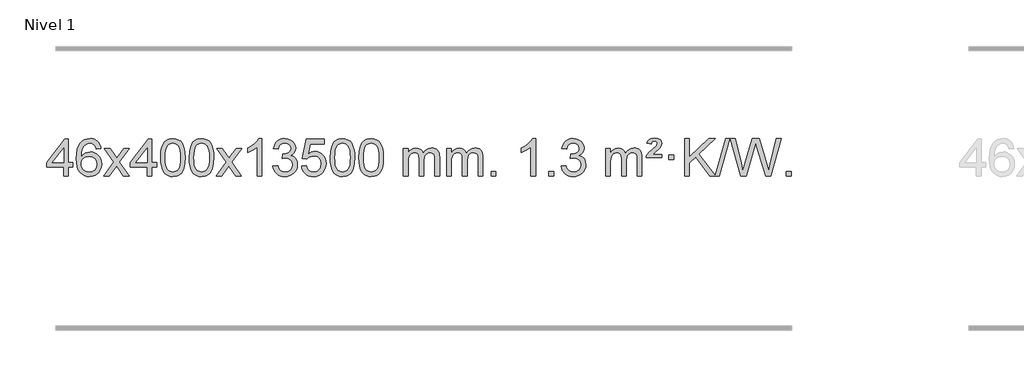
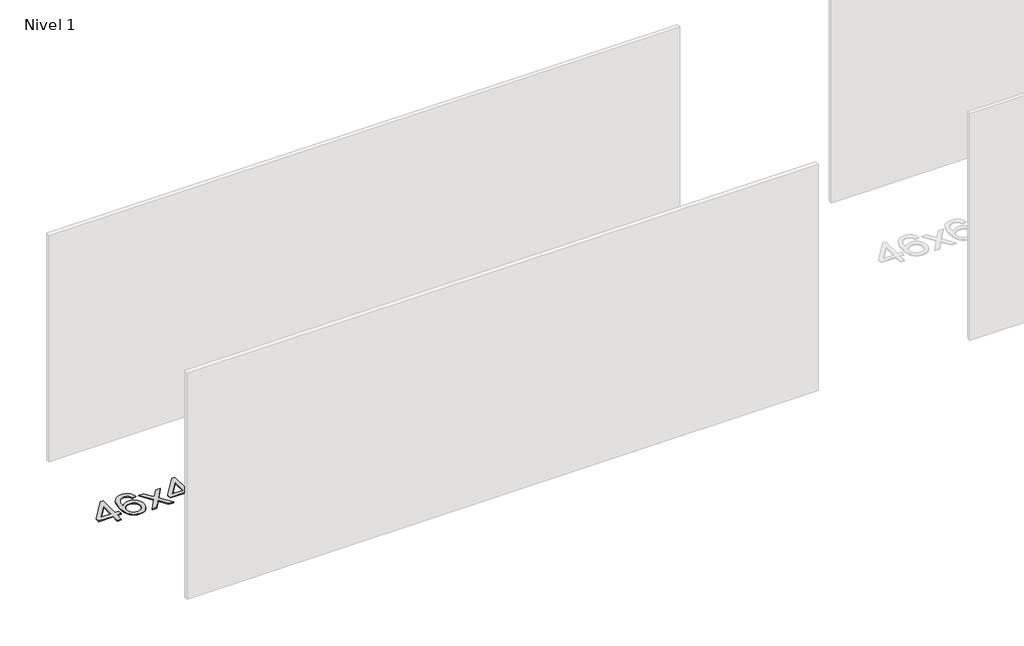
# One storey, part 11 of 12: 1 proxy.
"""IFC4 building model written with IfcOpenShell, lengths in millimetres."""

from ifc_helpers import new_model, si_unit, origin, origin_with_axes, place, context, project, spatial, polyline, outline, extrude, element, save

model = new_model("IFC4")

# Units and contexts
model_context = context("Model", 3, world=origin())
ifc_project = project(units=[si_unit("LENGTHUNIT", "METRE", prefix="MILLI")], contexts=[model_context])

# Site, building, storey
site = spatial("IfcSite", under=ifc_project)
building = spatial("IfcBuilding", under=site)
storey = spatial("IfcBuildingStorey", under=building, Name="Nivel 1", Elevation=0.0)

# Proxy
placement = place(None, origin())
element("IfcBuildingElementProxy", 1, Name="Texto de modelo 1", ObjectType="Texto de modelo 1", at=placement, inside=storey, context=model_context, shape_type="SweptSolid", body=[
    extrude(outline(polyline([(-11546.7519314, 2608.420547), (-11546.7519314, 2702.5983378), (-11728.8289935, 2702.5983378), (-11728.8289935, 2752.8264928), (-11534.1948926, 3003.9672682), (-11496.5237763, 3003.9672682), (-11496.5237763, 2752.8264928), (-11446.2956212, 2752.8264928), (-11446.2956212, 2702.5983378), (-11496.5237763, 2702.5983378), (-11496.5237763, 2608.420547), (-11546.7519314, 2608.420547)]), holes=[polyline([(-11546.7519314, 2752.8264928), (-11546.7519314, 2908.0236439), (-11667.0248183, 2752.8264928), (-11546.7519314, 2752.8264928)])]), origin_with_axes(), (0.0, 0.0, 1.0), 10.0),
    extrude(outline(polyline([(-11144.9266908, 2903.5109581), (-11195.1548459, 2897.2324387), (-11203.2482498, 2922.125787), (-11214.1866077, 2939.1219352), (-11236.970766, 2954.7937082), (-11264.5128647, 2960.0176325), (-11287.8611086, 2956.9764747), (-11309.8359265, 2947.8530012), (-11328.7082728, 2928.6372983), (-11344.1225284, 2902.1865829), (-11354.5335889, 2864.772984), (-11358.3963499, 2812.6686307), (-11338.2486793, 2836.1762902), (-11314.1033576, 2852.7432427), (-11287.3092857, 2862.565692), (-11259.215364, 2865.8398418), (-11235.0823051, 2863.601893), (-11212.8131816, 2856.8880466), (-11192.4079936, 2845.6983025), (-11173.8667411, 2830.0326609), (-11158.4586168, 2810.8230894), (-11147.4528138, 2789.0015557), (-11140.849332, 2764.5680599), (-11138.6481714, 2737.5226018), (-11142.7929752, 2701.5560055), (-11155.2273867, 2668.213634), (-11174.9213361, 2639.9357713), (-11200.8447541, 2619.1627013), (-11231.820418, 2606.397196), (-11266.6711057, 2602.1420276), (-11296.6136344, 2604.9624563), (-11323.6560268, 2613.4237421), (-11347.7982827, 2627.5258853), (-11369.0404022, 2647.2688857), (-11386.3584472, 2673.4866092), (-11398.7284793, 2707.0129217), (-11406.1504985, 2747.8478232), (-11408.6245049, 2795.9913136), (-11405.8776527, 2849.9657337), (-11397.637096, 2896.0306908), (-11383.9028349, 2934.1861851), (-11364.6748692, 2964.4322165), (-11343.8343542, 2984.4756538), (-11319.6706385, 2998.7923948), (-11292.1837221, 3007.3824394), (-11261.373605, 3010.2457876), (-11238.2399589, 3008.4738227), (-11217.301342, 3003.1579278), (-11198.5577543, 2994.2981031), (-11182.0091959, 2981.8943485), (-11168.1032565, 2966.3635969), (-11157.2875258, 2948.1227814), (-11149.5620039, 2927.1719017), (-11144.9266908, 2903.5109581)]), holes=[polyline([(-11358.3963499, 2738.3074168), (-11355.4900821, 2716.0505561), (-11346.7712788, 2694.7992395), (-11333.2332214, 2676.527767), (-11315.8691912, 2663.2104388), (-11294.9121802, 2655.0802467), (-11270.5951803, 2652.3701827), (-11237.4490126, 2657.9865145), (-11223.5338761, 2665.0069292), (-11211.3907046, 2674.8355099), (-11201.5406642, 2687.0737176), (-11194.504921, 2701.3230135), (-11188.8763265, 2735.8548701), (-11194.4313446, 2769.0010379), (-11201.3751173, 2782.6218688), (-11211.096399, 2794.274531), (-11223.2763587, 2803.6095366), (-11237.5961654, 2810.2773978), (-11272.6553195, 2815.6116867), (-11305.7524363, 2810.2773978), (-11333.4294251, 2794.274531), (-11344.3524547, 2782.7751529), (-11352.1546187, 2769.6141746), (-11356.8359171, 2754.7915958), (-11358.3963499, 2738.3074168)])]), origin_with_axes(), (0.0, 0.0, 1.0), 10.0),
    extrude(outline(polyline([(-11113.5340939, 2608.420547), (-11006.2106531, 2756.7505675), (-11107.2555745, 2903.5109581), (-11046.8248254, 2903.5109581), (-10998.0681983, 2832.877615), (-10975.3085655, 2799.5229808), (-10955.5900906, 2826.7952993), (-10900.0644348, 2903.5109581), (-10839.6336857, 2903.5109581), (-10945.7799041, 2756.7505675), (-10843.5577603, 2608.420547), (-10903.9885094, 2608.420547), (-10965.498379, 2697.5951426), (-10976.7800935, 2713.8800523), (-11053.1033448, 2608.420547), (-11113.5340939, 2608.420547)])), origin_with_axes(), (0.0, 0.0, 1.0), 10.0),
    extrude(outline(polyline([(-10648.9236594, 2608.420547), (-10648.9236594, 2702.5983378), (-10831.0007216, 2702.5983378), (-10831.0007216, 2752.8264928), (-10636.3666207, 3003.9672682), (-10598.6955043, 3003.9672682), (-10598.6955043, 2752.8264928), (-10548.4673493, 2752.8264928), (-10548.4673493, 2702.5983378), (-10598.6955043, 2702.5983378), (-10598.6955043, 2608.420547), (-10648.9236594, 2608.420547)]), holes=[polyline([(-10648.9236594, 2752.8264928), (-10648.9236594, 2908.0236439), (-10769.1965464, 2752.8264928), (-10648.9236594, 2752.8264928)])]), origin_with_axes(), (0.0, 0.0, 1.0), 10.0),
    extrude(outline(polyline([(-10504.5177136, 2806.0958057), (-10500.8266309, 2870.4138412), (-10489.7533828, 2921.7088541), (-10471.408334, 2960.7656593), (-10459.550271, 2975.9990395), (-10445.901849, 2988.3690716), (-10430.4170827, 2997.9401349), (-10413.0499869, 3004.7766086), (-10372.6688065, 3010.2457876), (-10341.717668, 3007.008426), (-10314.003891, 2997.2963414), (-10290.8273253, 2981.4896783), (-10273.4878206, 2959.9685816), (-10260.3912216, 2932.9169922), (-10249.9433729, 2900.5188512), (-10243.1007678, 2859.3773814), (-10240.8198994, 2806.0958057), (-10244.4741939, 2742.1456523), (-10255.4370774, 2690.9732667), (-10273.6717616, 2651.8796734), (-10285.5022334, 2636.6003078), (-10299.1414584, 2624.1658964), (-10314.6446188, 2614.5304538), (-10332.066897, 2607.6479948), (-10372.6688065, 2602.1420276), (-10400.3335326, 2604.5332606), (-10424.8589989, 2611.7069595), (-10446.2452055, 2623.6631243), (-10464.4921525, 2640.4017551), (-10482.0033355, 2670.6600492), (-10494.5113233, 2708.3618224), (-10502.016116, 2753.5070745), (-10504.5177136, 2806.0958057)]), holes=[polyline([(-10454.2895585, 2806.1939076), (-10452.8180305, 2762.5293805), (-10448.4034466, 2727.1851178), (-10441.0458067, 2700.1611196), (-10430.7451108, 2681.4573858), (-10418.2861739, 2668.7317344), (-10404.4538109, 2659.6419835), (-10389.2480218, 2654.1881329), (-10372.6688065, 2652.3701827), (-10356.0895913, 2654.1942643), (-10340.8838021, 2659.6665089), (-10327.0514391, 2668.7869167), (-10314.5925022, 2681.5554876), (-10304.2918063, 2700.2898783), (-10296.9341664, 2727.3077451), (-10292.5195825, 2762.6090882), (-10291.0480545, 2806.1939076), (-10292.4705316, 2848.7026722), (-10296.7379627, 2883.4246011), (-10303.8503479, 2910.3596945), (-10313.8076873, 2929.5079524), (-10326.0581577, 2942.8559375), (-10340.0499363, 2952.3902125), (-10355.7830229, 2958.1107775), (-10373.2574177, 2960.0176325), (-10389.7507938, 2958.3376381), (-10404.6990656, 2953.2976548), (-10418.1022329, 2944.8976825), (-10429.9602959, 2933.1377214), (-10440.6043483, 2912.291075), (-10448.2072429, 2884.1848906), (-10452.7689796, 2848.8191681), (-10454.2895585, 2806.1939076)])]), origin_with_axes(), (0.0, 0.0, 1.0), 10.0),
    extrude(outline(polyline([(-10196.8702638, 2806.0958057), (-10193.1791811, 2870.4138412), (-10182.105933, 2921.7088541), (-10163.7608842, 2960.7656593), (-10151.9028212, 2975.9990395), (-10138.2543992, 2988.3690716), (-10122.7696329, 2997.9401349), (-10105.402537, 3004.7766086), (-10065.0213567, 3010.2457876), (-10034.0702182, 3007.008426), (-10006.3564412, 2997.2963414), (-9983.1798755, 2981.4896783), (-9965.8403708, 2959.9685816), (-9952.7437718, 2932.9169922), (-9942.2959231, 2900.5188512), (-9935.453318, 2859.3773814), (-9933.1724496, 2806.0958057), (-9936.8267441, 2742.1456523), (-9947.7896275, 2690.9732667), (-9966.0243118, 2651.8796734), (-9977.8547836, 2636.6003078), (-9991.4940086, 2624.1658964), (-10006.997169, 2614.5304538), (-10024.4194471, 2607.6479948), (-10065.0213567, 2602.1420276), (-10092.6860827, 2604.5332606), (-10117.2115491, 2611.7069595), (-10138.5977557, 2623.6631243), (-10156.8447027, 2640.4017551), (-10174.3558856, 2670.6600492), (-10186.8638735, 2708.3618224), (-10194.3686662, 2753.5070745), (-10196.8702638, 2806.0958057)]), holes=[polyline([(-10146.6421087, 2806.1939076), (-10145.1705807, 2762.5293805), (-10140.7559968, 2727.1851178), (-10133.3983568, 2700.1611196), (-10123.097661, 2681.4573858), (-10110.6387241, 2668.7317344), (-10096.8063611, 2659.6419835), (-10081.6005719, 2654.1881329), (-10065.0213567, 2652.3701827), (-10048.4421414, 2654.1942643), (-10033.2363523, 2659.6665089), (-10019.4039893, 2668.7869167), (-10006.9450524, 2681.5554876), (-9996.6443565, 2700.2898783), (-9989.2867166, 2727.3077451), (-9984.8721327, 2762.6090882), (-9983.4006047, 2806.1939076), (-9984.8230817, 2848.7026722), (-9989.0905129, 2883.4246011), (-9996.2028981, 2910.3596945), (-10006.1602375, 2929.5079524), (-10018.4107079, 2942.8559375), (-10032.4024864, 2952.3902125), (-10048.1355731, 2958.1107775), (-10065.6099679, 2960.0176325), (-10082.103344, 2958.3376381), (-10097.0516157, 2953.2976548), (-10110.4547831, 2944.8976825), (-10122.3128461, 2933.1377214), (-10132.9568985, 2912.291075), (-10140.559793, 2884.1848906), (-10145.1215298, 2848.8191681), (-10146.6421087, 2806.1939076)])]), origin_with_axes(), (0.0, 0.0, 1.0), 10.0),
    extrude(outline(polyline([(-9908.0583721, 2608.420547), (-9800.7349313, 2756.7505675), (-9901.7798527, 2903.5109581), (-9841.3491036, 2903.5109581), (-9792.5924765, 2832.877615), (-9769.8328437, 2799.5229808), (-9750.1143688, 2826.7952993), (-9694.588713, 2903.5109581), (-9634.1579639, 2903.5109581), (-9740.3041823, 2756.7505675), (-9638.0820385, 2608.420547), (-9698.5127876, 2608.420547), (-9760.0226572, 2697.5951426), (-9771.3043717, 2713.8800523), (-9847.627623, 2608.420547), (-9908.0583721, 2608.420547)])), origin_with_axes(), (0.0, 0.0, 1.0), 10.0),
    extrude(outline(polyline([(-9418.3338601, 2608.420547), (-9468.5620152, 2608.420547), (-9468.5620152, 2921.5617013), (-9489.5312889, 2904.6023413), (-9516.1414199, 2887.6675068), (-9569.0183253, 2862.3081746), (-9569.0183253, 2909.7894775), (-9529.5691127, 2931.2492605), (-9495.3928753, 2956.780271), (-9468.4516506, 2983.9299622), (-9450.7074757, 3010.2457876), (-9418.3338601, 3010.2457876), (-9418.3338601, 2608.420547)])), origin_with_axes(), (0.0, 0.0, 1.0), 10.0),
    extrude(outline(polyline([(-9299.0419918, 2715.1553765), (-9248.8138367, 2721.4338959), (-9237.5689104, 2689.8696207), (-9221.1000597, 2668.5569905), (-9198.5979444, 2656.4168846), (-9169.2532239, 2652.3701827), (-9134.8194691, 2657.9374636), (-9120.5456477, 2664.8965646), (-9108.2338636, 2674.6393061), (-9091.2377154, 2699.5571799), (-9085.5723327, 2729.7725545), (-9091.1886645, 2758.4550874), (-9108.0376599, 2781.7174922), (-9133.5441449, 2797.1317478), (-9165.1329455, 2802.269833), (-9200.3515152, 2796.7761285), (-9194.7597089, 2847.0042836), (-9186.7153559, 2846.4156724), (-9156.6226087, 2850.020916), (-9129.7181721, 2860.8366466), (-9118.6449241, 2869.0158897), (-9110.7354612, 2879.1326445), (-9105.9897835, 2891.1869112), (-9104.4078909, 2905.1786898), (-9108.9941531, 2926.8714648), (-9122.7529397, 2944.4684869), (-9143.7467389, 2956.1303461), (-9170.0380388, 2960.0176325), (-9196.3783897, 2956.0935579), (-9217.9117491, 2944.3213341), (-9233.632573, 2924.700961), (-9242.5353173, 2897.2324387), (-9292.7634724, 2903.5109581), (-9286.8099154, 2927.4907328), (-9277.9746162, 2948.6132907), (-9266.2575747, 2966.8786317), (-9251.6587908, 2982.286756), (-9234.6381172, 2994.5188323), (-9215.6554062, 3003.2560297), (-9194.710658, 3008.4983481), (-9171.8038724, 3010.2457876), (-9140.2273345, 3006.7999596), (-9111.2259705, 2996.4624755), (-9086.7740806, 2980.1530404), (-9068.8459647, 2958.7913592), (-9057.846293, 2934.1800537), (-9054.1797358, 2908.1217457), (-9057.662352, 2883.8415341), (-9068.1102007, 2861.8176653), (-9085.376129, 2843.0556835), (-9109.3129841, 2828.5611329), (-9077.8713363, 2815.8569414), (-9054.5721433, 2794.22548), (-9040.151169, 2764.8439714), (-9035.3441776, 2728.8896377), (-9037.7476733, 2703.4076782), (-9044.9581605, 2679.9368069), (-9056.975639, 2658.4770238), (-9073.8001089, 2639.028329), (-9094.2972674, 2622.8905722), (-9117.3328116, 2611.363603), (-9142.9067417, 2604.4474215), (-9171.0190575, 2602.1420276), (-9196.4274406, 2604.1101963), (-9219.5794808, 2610.0147023), (-9240.4751782, 2619.8555457), (-9259.1145326, 2633.6327264), (-9274.743386, 2650.5369041), (-9286.6075804, 2669.7587383), (-9294.7071156, 2691.2982292), (-9299.0419918, 2715.1553765)])), origin_with_axes(), (0.0, 0.0, 1.0), 10.0),
    extrude(outline(polyline([(-8991.394542, 2715.1553765), (-8941.1663869, 2721.4338959), (-8931.9448115, 2691.2798351), (-8915.8561056, 2669.6851619), (-8892.9738455, 2656.6989275), (-8863.3716076, 2652.3701827), (-8844.2417439, 2653.8754332), (-8827.368223, 2658.3911847), (-8812.7510451, 2665.9174372), (-8800.3902101, 2676.4541906), (-8790.5616294, 2689.480279), (-8783.5412147, 2704.4745359), (-8777.9248829, 2740.3675559), (-8783.1855954, 2774.1636486), (-8789.7614861, 2788.0818507), (-8798.967733, 2800.0134901), (-8810.834993, 2809.5845533), (-8825.393923, 2816.4210271), (-8862.5867927, 2821.8902061), (-8886.9528435, 2819.7074396), (-8906.6835812, 2813.1591401), (-8922.4411933, 2803.1282243), (-8934.8878675, 2790.4976092), (-8985.1160226, 2796.7761285), (-8941.1663869, 3003.9672682), (-8746.532286, 3003.9672682), (-8746.532286, 2953.7391131), (-8900.5522146, 2953.7391131), (-8922.0365231, 2843.080209), (-8904.3107423, 2855.7844006), (-8886.1557659, 2864.8588231), (-8867.5715937, 2870.3034766), (-8848.558226, 2872.1183612), (-8824.097139, 2869.8681496), (-8801.6287461, 2863.117515), (-8781.1530474, 2851.8664573), (-8762.6700428, 2836.1149766), (-8747.3692175, 2816.8256973), (-8736.4400566, 2794.961244), (-8729.88256, 2770.5216168), (-8727.6967278, 2743.5068156), (-8729.6648965, 2717.4852958), (-8735.5694025, 2693.2786606), (-8745.4102459, 2670.8869098), (-8759.1874266, 2650.3100435), (-8780.0585985, 2629.2365366), (-8804.4123865, 2614.1840316), (-8832.2487908, 2605.1525286), (-8863.5678114, 2602.1420276), (-8889.4881636, 2604.0764738), (-8912.9007869, 2609.8798123), (-8933.8056813, 2619.552043), (-8952.2028467, 2633.0931662), (-8967.5098034, 2649.8287312), (-8979.1440715, 2669.084288), (-8987.105651, 2690.8598364), (-8991.394542, 2715.1553765)])), origin_with_axes(), (0.0, 0.0, 1.0), 10.0),
    extrude(outline(polyline([(-8683.7470921, 2806.0958057), (-8680.0560094, 2870.4138412), (-8668.9827614, 2921.7088541), (-8650.6377126, 2960.7656593), (-8638.7796496, 2975.9990395), (-8625.1312276, 2988.3690716), (-8609.6464612, 2997.9401349), (-8592.2793654, 3004.7766086), (-8551.8981851, 3010.2457876), (-8520.9470465, 3007.008426), (-8493.2332696, 2997.2963414), (-8470.0567039, 2981.4896783), (-8452.7171992, 2959.9685816), (-8439.6206001, 2932.9169922), (-8429.1727515, 2900.5188512), (-8422.3301463, 2859.3773814), (-8420.049278, 2806.0958057), (-8423.7035725, 2742.1456523), (-8434.6664559, 2690.9732667), (-8452.9011401, 2651.8796734), (-8464.731612, 2636.6003078), (-8478.3708369, 2624.1658964), (-8493.8739974, 2614.5304538), (-8511.2962755, 2607.6479948), (-8551.8981851, 2602.1420276), (-8579.5629111, 2604.5332606), (-8604.0883774, 2611.7069595), (-8625.4745841, 2623.6631243), (-8643.721531, 2640.4017551), (-8661.232714, 2670.6600492), (-8673.7407019, 2708.3618224), (-8681.2454946, 2753.5070745), (-8683.7470921, 2806.0958057)]), holes=[polyline([(-8633.518937, 2806.1939076), (-8632.0474091, 2762.5293805), (-8627.6328251, 2727.1851178), (-8620.2751852, 2700.1611196), (-8609.9744894, 2681.4573858), (-8597.5155525, 2668.7317344), (-8583.6831894, 2659.6419835), (-8568.4774003, 2654.1881329), (-8551.8981851, 2652.3701827), (-8535.3189698, 2654.1942643), (-8520.1131807, 2659.6665089), (-8506.2808176, 2668.7869167), (-8493.8218807, 2681.5554876), (-8483.5211849, 2700.2898783), (-8476.163545, 2727.3077451), (-8471.748961, 2762.6090882), (-8470.2774331, 2806.1939076), (-8471.6999101, 2848.7026722), (-8475.9673412, 2883.4246011), (-8483.0797265, 2910.3596945), (-8493.0370658, 2929.5079524), (-8505.2875363, 2942.8559375), (-8519.2793148, 2952.3902125), (-8535.0124015, 2958.1107775), (-8552.4867962, 2960.0176325), (-8568.9801724, 2958.3376381), (-8583.9284441, 2953.2976548), (-8597.3316115, 2944.8976825), (-8609.1896744, 2933.1377214), (-8619.8337268, 2912.291075), (-8627.4366214, 2884.1848906), (-8631.9983581, 2848.8191681), (-8633.518937, 2806.1939076)])]), origin_with_axes(), (0.0, 0.0, 1.0), 10.0),
    extrude(outline(polyline([(-8376.0996423, 2806.0958057), (-8372.4085596, 2870.4138412), (-8361.3353115, 2921.7088541), (-8342.9902627, 2960.7656593), (-8331.1321997, 2975.9990395), (-8317.4837777, 2988.3690716), (-8301.9990114, 2997.9401349), (-8284.6319156, 3004.7766086), (-8244.2507352, 3010.2457876), (-8213.2995967, 3007.008426), (-8185.5858197, 2997.2963414), (-8162.409254, 2981.4896783), (-8145.0697493, 2959.9685816), (-8131.9731503, 2932.9169922), (-8121.5253016, 2900.5188512), (-8114.6826965, 2859.3773814), (-8112.4018281, 2806.0958057), (-8116.0561226, 2742.1456523), (-8127.0190061, 2690.9732667), (-8145.2536903, 2651.8796734), (-8157.0841621, 2636.6003078), (-8170.7233871, 2624.1658964), (-8186.2265475, 2614.5304538), (-8203.6488257, 2607.6479948), (-8244.2507352, 2602.1420276), (-8271.9154613, 2604.5332606), (-8296.4409276, 2611.7069595), (-8317.8271343, 2623.6631243), (-8336.0740812, 2640.4017551), (-8353.5852642, 2670.6600492), (-8366.093252, 2708.3618224), (-8373.5980447, 2753.5070745), (-8376.0996423, 2806.0958057)]), holes=[polyline([(-8325.8714872, 2806.1939076), (-8324.3999592, 2762.5293805), (-8319.9853753, 2727.1851178), (-8312.6277354, 2700.1611196), (-8302.3270395, 2681.4573858), (-8289.8681026, 2668.7317344), (-8276.0357396, 2659.6419835), (-8260.8299505, 2654.1881329), (-8244.2507352, 2652.3701827), (-8227.67152, 2654.1942643), (-8212.4657308, 2659.6665089), (-8198.6333678, 2668.7869167), (-8186.1744309, 2681.5554876), (-8175.873735, 2700.2898783), (-8168.5160951, 2727.3077451), (-8164.1015112, 2762.6090882), (-8162.6299832, 2806.1939076), (-8164.0524603, 2848.7026722), (-8168.3198914, 2883.4246011), (-8175.4322767, 2910.3596945), (-8185.389616, 2929.5079524), (-8197.6400864, 2942.8559375), (-8211.631865, 2952.3902125), (-8227.3649516, 2958.1107775), (-8244.8393464, 2960.0176325), (-8261.3327225, 2958.3376381), (-8276.2809943, 2953.2976548), (-8289.6841616, 2944.8976825), (-8301.5422246, 2933.1377214), (-8312.186277, 2912.291075), (-8319.7891716, 2884.1848906), (-8324.3509083, 2848.8191681), (-8325.8714872, 2806.1939076)])]), origin_with_axes(), (0.0, 0.0, 1.0), 10.0),
    extrude(outline(polyline([(-7898.9321691, 2608.420547), (-7898.9321691, 2903.5109581), (-7848.704014, 2903.5109581), (-7848.704014, 2854.9505347), (-7833.5963267, 2877.2564463), (-7814.1721574, 2894.7308411), (-7791.0936936, 2906.0248184), (-7765.0231228, 2909.7894775), (-7737.0886167, 2905.951242), (-7714.6968659, 2894.4365355), (-7697.9704978, 2876.0056476), (-7687.0321399, 2851.4188676), (-7668.7238792, 2876.9560094), (-7647.8404446, 2895.196825), (-7624.3818361, 2906.1413143), (-7598.3480536, 2909.7894775), (-7578.2402368, 2908.2719642), (-7560.5910981, 2903.7194245), (-7545.4006374, 2896.1318584), (-7532.6688547, 2885.5092658), (-7522.6042164, 2871.7290194), (-7515.4151891, 2854.6684918), (-7511.1017727, 2834.3276832), (-7509.6639672, 2810.7065934), (-7509.6639672, 2608.420547), (-7559.8921223, 2608.420547), (-7559.8921223, 2789.124183), (-7561.057082, 2814.1769469), (-7564.5519609, 2831.0627305), (-7571.1002604, 2842.6264879), (-7581.4254818, 2851.7131732), (-7594.7060218, 2857.5992851), (-7610.1202774, 2859.5613224), (-7637.3312823, 2854.5336018), (-7659.5145666, 2839.45044), (-7668.1199396, 2827.8805512), (-7674.2666346, 2813.2817674), (-7679.1839906, 2774.9975144), (-7679.1839906, 2608.420547), (-7729.4121457, 2608.420547), (-7729.4121457, 2794.7159894), (-7732.3184135, 2823.1164794), (-7741.0372167, 2843.3745146), (-7756.3778959, 2855.5146204), (-7779.1497914, 2859.5613224), (-7798.5003844, 2856.8635211), (-7816.3303984, 2848.7701172), (-7831.0456782, 2835.4773144), (-7841.0520685, 2817.1813165), (-7846.7910276, 2791.7974589), (-7848.704014, 2757.2410768), (-7848.704014, 2608.420547), (-7898.9321691, 2608.420547)])), origin_with_axes(), (0.0, 0.0, 1.0), 10.0),
    extrude(outline(polyline([(-7434.3217346, 2608.420547), (-7434.3217346, 2903.5109581), (-7384.0935796, 2903.5109581), (-7384.0935796, 2854.9505347), (-7368.9858923, 2877.2564463), (-7349.5617229, 2894.7308411), (-7326.4832591, 2906.0248184), (-7300.4126884, 2909.7894775), (-7272.4781822, 2905.951242), (-7250.0864315, 2894.4365355), (-7233.3600634, 2876.0056476), (-7222.4217054, 2851.4188676), (-7204.1134448, 2876.9560094), (-7183.2300102, 2895.196825), (-7159.7714016, 2906.1413143), (-7133.7376191, 2909.7894775), (-7113.6298024, 2908.2719642), (-7095.9806637, 2903.7194245), (-7080.790203, 2896.1318584), (-7068.0584202, 2885.5092658), (-7057.993782, 2871.7290194), (-7050.8047547, 2854.6684918), (-7046.4913383, 2834.3276832), (-7045.0535328, 2810.7065934), (-7045.0535328, 2608.420547), (-7095.2816879, 2608.420547), (-7095.2816879, 2789.124183), (-7096.4466475, 2814.1769469), (-7099.9415265, 2831.0627305), (-7106.489826, 2842.6264879), (-7116.8150473, 2851.7131732), (-7130.0955874, 2857.5992851), (-7145.509843, 2859.5613224), (-7172.7208479, 2854.5336018), (-7194.9041322, 2839.45044), (-7203.5095052, 2827.8805512), (-7209.6562002, 2813.2817674), (-7214.5735562, 2774.9975144), (-7214.5735562, 2608.420547), (-7264.8017113, 2608.420547), (-7264.8017113, 2794.7159894), (-7267.707979, 2823.1164794), (-7276.4267823, 2843.3745146), (-7291.7674615, 2855.5146204), (-7314.539357, 2859.5613224), (-7333.88995, 2856.8635211), (-7351.719964, 2848.7701172), (-7366.4352438, 2835.4773144), (-7376.4416341, 2817.1813165), (-7382.1805932, 2791.7974589), (-7384.0935796, 2757.2410768), (-7384.0935796, 2608.420547), (-7434.3217346, 2608.420547)])), origin_with_axes(), (0.0, 0.0, 1.0), 10.0),
    extrude(outline(polyline([(-6957.1542614, 2608.420547), (-6957.1542614, 2658.6487021), (-6906.9261064, 2658.6487021), (-6906.9261064, 2608.420547), (-6957.1542614, 2608.420547)])), origin_with_axes(), (0.0, 0.0, 1.0), 10.0),
    extrude(outline(polyline([(-6479.9867882, 2608.420547), (-6530.2149433, 2608.420547), (-6530.2149433, 2921.5617013), (-6551.184217, 2904.6023413), (-6577.794348, 2887.6675068), (-6630.6712534, 2862.3081746), (-6630.6712534, 2909.7894775), (-6591.2220408, 2931.2492605), (-6557.0458035, 2956.780271), (-6530.1045787, 2983.9299622), (-6512.3604038, 3010.2457876), (-6479.9867882, 3010.2457876), (-6479.9867882, 2608.420547)])), origin_with_axes(), (0.0, 0.0, 1.0), 10.0),
    extrude(outline(polyline([(-6335.5808424, 2608.420547), (-6335.5808424, 2658.6487021), (-6285.3526873, 2658.6487021), (-6285.3526873, 2608.420547), (-6335.5808424, 2608.420547)])), origin_with_axes(), (0.0, 0.0, 1.0), 10.0),
    extrude(outline(polyline([(-6203.7319353, 2715.1553765), (-6153.5037802, 2721.4338959), (-6142.2588539, 2689.8696207), (-6125.7900033, 2668.5569905), (-6103.2878879, 2656.4168846), (-6073.9431674, 2652.3701827), (-6039.5094127, 2657.9374636), (-6025.2355912, 2664.8965646), (-6012.9238071, 2674.6393061), (-5995.927659, 2699.5571799), (-5990.2622762, 2729.7725545), (-5995.878608, 2758.4550874), (-6012.7276034, 2781.7174922), (-6038.2340884, 2797.1317478), (-6069.8228891, 2802.269833), (-6105.0414587, 2796.7761285), (-6099.4496524, 2847.0042836), (-6091.4052994, 2846.4156724), (-6061.3125522, 2850.020916), (-6034.4081157, 2860.8366466), (-6023.3348676, 2869.0158897), (-6015.4254047, 2879.1326445), (-6010.679727, 2891.1869112), (-6009.0978344, 2905.1786898), (-6013.6840966, 2926.8714648), (-6027.4428832, 2944.4684869), (-6048.4366824, 2956.1303461), (-6074.7279823, 2960.0176325), (-6101.0683332, 2956.0935579), (-6122.6016926, 2944.3213341), (-6138.3225166, 2924.700961), (-6147.2252608, 2897.2324387), (-6197.4534159, 2903.5109581), (-6191.499859, 2927.4907328), (-6182.6645597, 2948.6132907), (-6170.9475182, 2966.8786317), (-6156.3487343, 2982.286756), (-6139.3280607, 2994.5188323), (-6120.3453497, 3003.2560297), (-6099.4006015, 3008.4983481), (-6076.4938159, 3010.2457876), (-6044.917278, 3006.7999596), (-6015.915914, 2996.4624755), (-5991.4640241, 2980.1530404), (-5973.5359082, 2958.7913592), (-5962.5362365, 2934.1800537), (-5958.8696793, 2908.1217457), (-5962.3522955, 2883.8415341), (-5972.8001442, 2861.8176653), (-5990.0660725, 2843.0556835), (-6014.0029277, 2828.5611329), (-5982.5612798, 2815.8569414), (-5959.2620868, 2794.22548), (-5944.8411126, 2764.8439714), (-5940.0341212, 2728.8896377), (-5942.4376169, 2703.4076782), (-5949.648104, 2679.9368069), (-5961.6655825, 2658.4770238), (-5978.4900524, 2639.028329), (-5998.9872109, 2622.8905722), (-6022.0227552, 2611.363603), (-6047.5966852, 2604.4474215), (-6075.709001, 2602.1420276), (-6101.1173841, 2604.1101963), (-6124.2694243, 2610.0147023), (-6145.1651217, 2619.8555457), (-6163.8044761, 2633.6327264), (-6179.4333295, 2650.5369041), (-6191.2975239, 2669.7587383), (-6199.3970591, 2691.2982292), (-6203.7319353, 2715.1553765)])), origin_with_axes(), (0.0, 0.0, 1.0), 10.0),
    extrude(outline(polyline([(-5726.5644621, 2608.420547), (-5726.5644621, 2903.5109581), (-5676.336307, 2903.5109581), (-5676.336307, 2854.9505347), (-5661.2286197, 2877.2564463), (-5641.8044504, 2894.7308411), (-5618.7259866, 2906.0248184), (-5592.6554158, 2909.7894775), (-5564.7209097, 2905.951242), (-5542.3291589, 2894.4365355), (-5525.6027909, 2876.0056476), (-5514.6644329, 2851.4188676), (-5496.3561722, 2876.9560094), (-5475.4727377, 2895.196825), (-5452.0141291, 2906.1413143), (-5425.9803466, 2909.7894775), (-5405.8725298, 2908.2719642), (-5388.2233911, 2903.7194245), (-5373.0329304, 2896.1318584), (-5360.3011477, 2885.5092658), (-5350.2365094, 2871.7290194), (-5343.0474821, 2854.6684918), (-5338.7340657, 2834.3276832), (-5337.2962603, 2810.7065934), (-5337.2962603, 2608.420547), (-5387.5244153, 2608.420547), (-5387.5244153, 2789.124183), (-5388.689375, 2814.1769469), (-5392.1842539, 2831.0627305), (-5398.7325535, 2842.6264879), (-5409.0577748, 2851.7131732), (-5422.3383148, 2857.5992851), (-5437.7525704, 2859.5613224), (-5464.9635753, 2854.5336018), (-5487.1468596, 2839.45044), (-5495.7522326, 2827.8805512), (-5501.8989276, 2813.2817674), (-5506.8162836, 2774.9975144), (-5506.8162836, 2608.420547), (-5557.0444387, 2608.420547), (-5557.0444387, 2794.7159894), (-5559.9507065, 2823.1164794), (-5568.6695098, 2843.3745146), (-5584.010189, 2855.5146204), (-5606.7820845, 2859.5613224), (-5626.1326774, 2856.8635211), (-5643.9626914, 2848.7701172), (-5658.6779713, 2835.4773144), (-5668.6843615, 2817.1813165), (-5674.4233206, 2791.7974589), (-5676.336307, 2757.2410768), (-5676.336307, 2608.420547), (-5726.5644621, 2608.420547)])), origin_with_axes(), (0.0, 0.0, 1.0), 10.0),
    extrude(outline(polyline([(-5293.3466246, 2809.3331673), (-5289.5206518, 2825.1520931), (-5281.1819933, 2841.0200698), (-5259.6731593, 2866.1586728), (-5227.7164766, 2893.8969753), (-5183.5706372, 2931.273786), (-5176.4337265, 2942.8007552), (-5174.0547563, 2954.6220299), (-5175.9432172, 2966.7130848), (-5181.6085999, 2976.4987459), (-5190.977328, 2982.973469), (-5203.9758252, 2985.1317101), (-5216.4102366, 2983.5130293), (-5225.26393, 2978.656987), (-5231.6896022, 2969.1901569), (-5236.8399501, 2953.7391131), (-5287.0681052, 2960.0176325), (-5276.2278491, 2985.2298119), (-5259.5995829, 3002.7900458), (-5235.834406, 3013.0907417), (-5203.5834178, 3016.524307), (-5167.8007624, 3012.3917659), (-5143.0545668, 2999.9941427), (-5128.6335926, 2981.6613566), (-5123.8266012, 2959.7233269), (-5127.9223541, 2936.8165414), (-5140.2096127, 2915.1850801), (-5160.737428, 2895.3685032), (-5197.2067965, 2867.3113697), (-5222.8113834, 2840.7257642), (-5123.8266012, 2840.7257642), (-5123.8266012, 2809.3331673), (-5293.3466246, 2809.3331673)])), origin_with_axes(), (0.0, 0.0, 1.0), 10.0),
    extrude(outline(polyline([(-5048.4843686, 2784.2190898), (-5048.4843686, 2834.4472448), (-4998.2562135, 2834.4472448), (-4998.2562135, 2784.2190898), (-5048.4843686, 2784.2190898)])), origin_with_axes(), (0.0, 0.0, 1.0), 10.0),
    extrude(outline(polyline([(-4607.6145856, 2608.420547), (-4761.045903, 2811.0990009), (-4828.7361901, 2746.5479735), (-4828.7361901, 2608.420547), (-4878.9643452, 2608.420547), (-4878.9643452, 3010.2457876), (-4828.7361901, 3010.2457876), (-4828.7361901, 2813.5515475), (-4622.7222728, 3010.2457876), (-4552.4813372, 3010.2457876), (-4725.4349259, 2845.0422463), (-4550.781316, 2614.4650668), (-4439.4679883, 3010.2457876), (-4394.1449265, 3010.2457876), (-4507.1582754, 2608.420547), (-4546.2028178, 2608.420547), (-4552.4813372, 2608.420547), (-4607.6145856, 2608.420547)])), origin_with_axes(), (0.0, 0.0, 1.0), 10.0),
    extrude(outline(polyline([(-4279.6600496, 2608.420547), (-4389.2398332, 3010.2457876), (-4337.4420483, 3010.2457876), (-4273.8720395, 2746.155566), (-4254.2516665, 2664.6329159), (-4233.2578673, 2736.7377869), (-4153.5991526, 3010.2457876), (-4078.943633, 3010.2457876), (-4021.0635325, 2811.9819177), (-3996.268286, 2738.4055186), (-3977.9968136, 2664.6329159), (-3958.9650517, 2743.8011212), (-3894.8064317, 3010.2457876), (-3843.0086468, 3010.2457876), (-3952.6865323, 2608.420547), (-4006.3482526, 2608.420547), (-4102.6842845, 2918.4224416), (-4116.12424, 2961.6853642), (-4131.2319273, 2909.5932737), (-4219.0330968, 2608.420547), (-4279.6600496, 2608.420547)])), origin_with_axes(), (0.0, 0.0, 1.0), 10.0),
    extrude(outline(polyline([(-3786.5019723, 2608.420547), (-3786.5019723, 2658.6487021), (-3736.2738173, 2658.6487021), (-3736.2738173, 2608.420547), (-3786.5019723, 2608.420547)])), origin_with_axes(), (0.0, 0.0, 1.0), 10.0),
])

save(model, "model.ifc")
